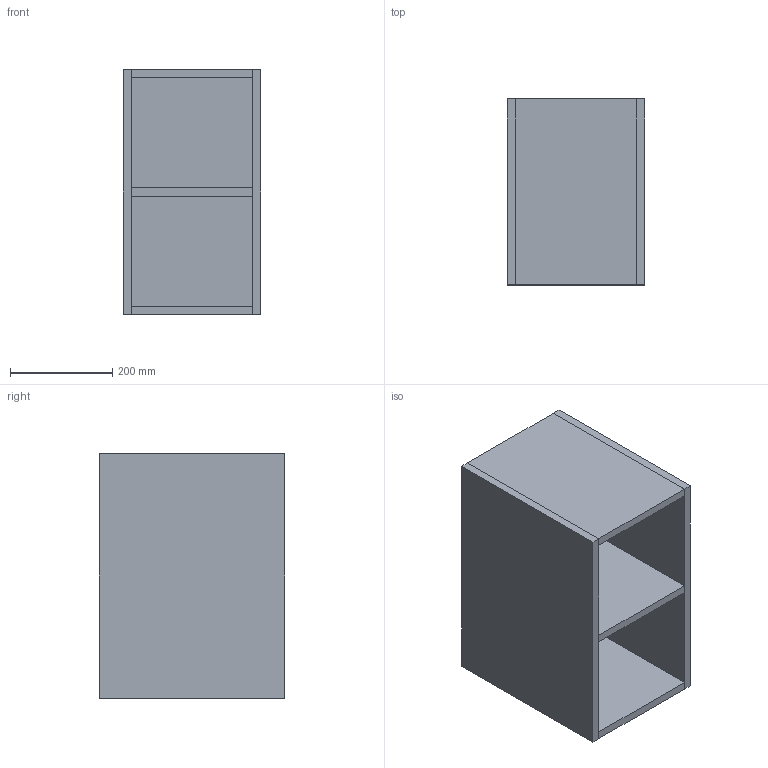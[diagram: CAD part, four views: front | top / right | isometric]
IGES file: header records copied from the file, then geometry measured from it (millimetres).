
Start section: Data from Parasolid IGES Translator 19.0.9, Copyright(c) 2006 Siemens PL M Software. All Rights Reserved.
Global section: file name: noorth-SI-H 48 D 38,8 W 27_8454.igs; native system: By Siemens PLM Incorporated; preprocessor: XPlus GENERIC/IGES 19.0.9; author: Noname; organization: Noname; date: 20200601.103803; units: metre
Bounding box: 270.01 x 364.06 x 480 mm (x, y, z)
Volume: 10055140.9 mm3; surface area: 1547673.7 mm2
Topology: 6 solids, 6 shells, 36 faces, 72 edges, 48 vertices
Faces by surface type: plane 36
